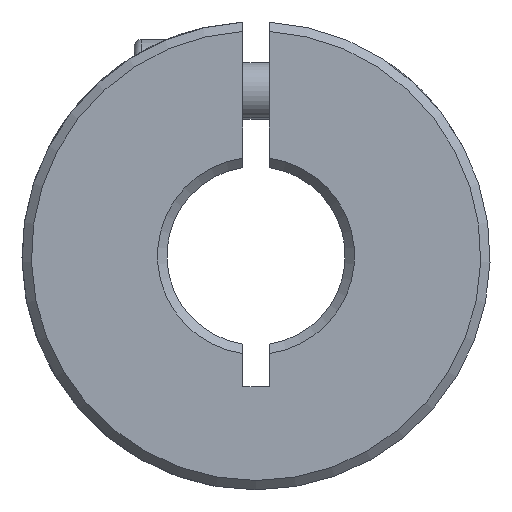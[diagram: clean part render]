
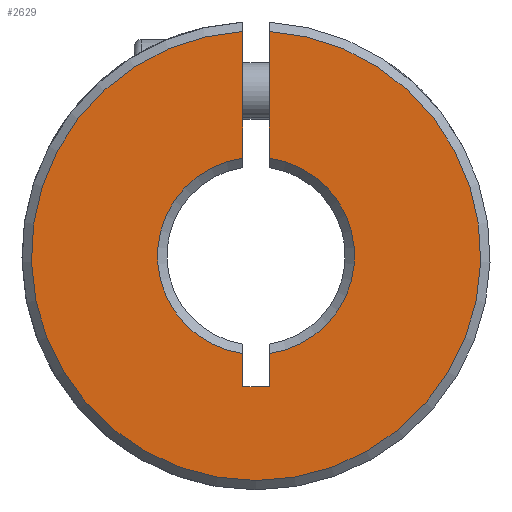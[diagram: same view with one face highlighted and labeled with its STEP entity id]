
A CAD part, front view. The second image highlights one B-rep face of the part: STEP entity #2629.
In plain terms, the highlighted planar face has unit normal (0, -1, 0).
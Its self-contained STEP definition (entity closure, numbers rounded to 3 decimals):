
#121 = EDGE_LOOP ( 'NONE', ( #4263, #645, #3737, #4777, #5089, #3187, #2248, #2332 ) ) ;
#174 = VECTOR ( 'NONE', #4131, 1000. ) ;
#198 = EDGE_CURVE ( 'NONE', #720, #352, #3021, .T. ) ;
#212 = FACE_OUTER_BOUND ( 'NONE', #121, .T. ) ;
#241 = CARTESIAN_POINT ( 'NONE',  ( -0.7, 0.25, -5.216 ) ) ;
#352 = VERTEX_POINT ( 'NONE', #3117 ) ;
#456 = DIRECTION ( 'NONE',  ( 0., 0., 1. ) ) ;
#605 = CARTESIAN_POINT ( 'NONE',  ( 0.7, 0.25, -7. ) ) ;
#609 = DIRECTION ( 'NONE',  ( 0., 1., 0. ) ) ;
#617 = EDGE_CURVE ( 'NONE', #1207, #352, #5041, .T. ) ;
#620 = LINE ( 'NONE', #5153, #3841 ) ;
#630 = EDGE_CURVE ( 'NONE', #2887, #5106, #4489, .T. ) ;
#645 = ORIENTED_EDGE ( 'NONE', *, *, #198, .T. ) ;
#681 = DIRECTION ( 'NONE',  ( 0., 0., 1. ) ) ;
#720 = VERTEX_POINT ( 'NONE', #3133 ) ;
#866 = CARTESIAN_POINT ( 'NONE',  ( 0., 0.25, 0. ) ) ;
#934 = CARTESIAN_POINT ( 'NONE',  ( 0.7, 0.25, -7. ) ) ;
#1207 = VERTEX_POINT ( 'NONE', #605 ) ;
#1241 = DIRECTION ( 'NONE',  ( 0., 1., 0. ) ) ;
#1366 = CARTESIAN_POINT ( 'NONE',  ( 0.7, 0.25, 11.98 ) ) ;
#1775 = VECTOR ( 'NONE', #4459, 1000. ) ;
#1848 = DIRECTION ( 'NONE',  ( 0., 0., 1. ) ) ;
#1860 = EDGE_CURVE ( 'NONE', #2193, #2045, #2064, .T. ) ;
#1907 = CARTESIAN_POINT ( 'NONE',  ( -0.7, 0.25, 11.98 ) ) ;
#1923 = EDGE_CURVE ( 'NONE', #3661, #1207, #2367, .T. ) ;
#2045 = VERTEX_POINT ( 'NONE', #1366 ) ;
#2064 = CIRCLE ( 'NONE', #4337, 12. ) ;
#2193 = VERTEX_POINT ( 'NONE', #1907 ) ;
#2248 = ORIENTED_EDGE ( 'NONE', *, *, #2965, .F. ) ;
#2332 = ORIENTED_EDGE ( 'NONE', *, *, #1860, .T. ) ;
#2367 = LINE ( 'NONE', #3692, #4072 ) ;
#2450 = EDGE_CURVE ( 'NONE', #2887, #3661, #3460, .T. ) ;
#2502 = DIRECTION ( 'NONE',  ( 0., 1., 0. ) ) ;
#2583 = AXIS2_PLACEMENT_3D ( 'NONE', #866, #1241, #4559 ) ;
#2629 = ADVANCED_FACE ( 'NONE', ( #212 ), #3565, .F. ) ;
#2844 = DIRECTION ( 'NONE',  ( 0., 0., 1. ) ) ;
#2887 = VERTEX_POINT ( 'NONE', #241 ) ;
#2965 = EDGE_CURVE ( 'NONE', #2193, #5106, #3696, .T. ) ;
#3021 = CIRCLE ( 'NONE', #2583, 5.263 ) ;
#3117 = CARTESIAN_POINT ( 'NONE',  ( 0.7, 0.25, -5.216 ) ) ;
#3133 = CARTESIAN_POINT ( 'NONE',  ( 0.7, 0.25, 5.216 ) ) ;
#3187 = ORIENTED_EDGE ( 'NONE', *, *, #630, .T. ) ;
#3219 = CARTESIAN_POINT ( 'NONE',  ( -0.7, 0.25, -7. ) ) ;
#3345 = CARTESIAN_POINT ( 'NONE',  ( 0., 0.25, 0. ) ) ;
#3460 = LINE ( 'NONE', #5125, #3811 ) ;
#3461 = CARTESIAN_POINT ( 'NONE',  ( -0.7, 0.25, 5.216 ) ) ;
#3522 = DIRECTION ( 'NONE',  ( 0., -1., 0. ) ) ;
#3565 = PLANE ( 'NONE',  #4158 ) ;
#3643 = CARTESIAN_POINT ( 'NONE',  ( -0.7, 0.25, -7. ) ) ;
#3661 = VERTEX_POINT ( 'NONE', #3219 ) ;
#3692 = CARTESIAN_POINT ( 'NONE',  ( 0.7, 0.25, -7. ) ) ;
#3696 = LINE ( 'NONE', #3643, #1775 ) ;
#3737 = ORIENTED_EDGE ( 'NONE', *, *, #617, .F. ) ;
#3811 = VECTOR ( 'NONE', #4712, 1000. ) ;
#3841 = VECTOR ( 'NONE', #1848, 1000. ) ;
#3863 = EDGE_CURVE ( 'NONE', #720, #2045, #620, .T. ) ;
#4021 = DIRECTION ( 'NONE',  ( 1., 0., 0. ) ) ;
#4072 = VECTOR ( 'NONE', #4021, 1000. ) ;
#4131 = DIRECTION ( 'NONE',  ( 0., 0., 1. ) ) ;
#4158 = AXIS2_PLACEMENT_3D ( 'NONE', #4402, #609, #681 ) ;
#4263 = ORIENTED_EDGE ( 'NONE', *, *, #3863, .F. ) ;
#4337 = AXIS2_PLACEMENT_3D ( 'NONE', #5350, #3522, #2844 ) ;
#4402 = CARTESIAN_POINT ( 'NONE',  ( 12.5, 0.25, -50. ) ) ;
#4459 = DIRECTION ( 'NONE',  ( 0., 0., -1. ) ) ;
#4489 = CIRCLE ( 'NONE', #5278, 5.263 ) ;
#4559 = DIRECTION ( 'NONE',  ( 0., 0., 1. ) ) ;
#4712 = DIRECTION ( 'NONE',  ( 0., 0., -1. ) ) ;
#4777 = ORIENTED_EDGE ( 'NONE', *, *, #1923, .F. ) ;
#5041 = LINE ( 'NONE', #934, #174 ) ;
#5089 = ORIENTED_EDGE ( 'NONE', *, *, #2450, .F. ) ;
#5106 = VERTEX_POINT ( 'NONE', #3461 ) ;
#5125 = CARTESIAN_POINT ( 'NONE',  ( -0.7, 0.25, -7. ) ) ;
#5153 = CARTESIAN_POINT ( 'NONE',  ( 0.7, 0.25, -7. ) ) ;
#5278 = AXIS2_PLACEMENT_3D ( 'NONE', #3345, #2502, #456 ) ;
#5350 = CARTESIAN_POINT ( 'NONE',  ( 0., 0.25, 0. ) ) ;
